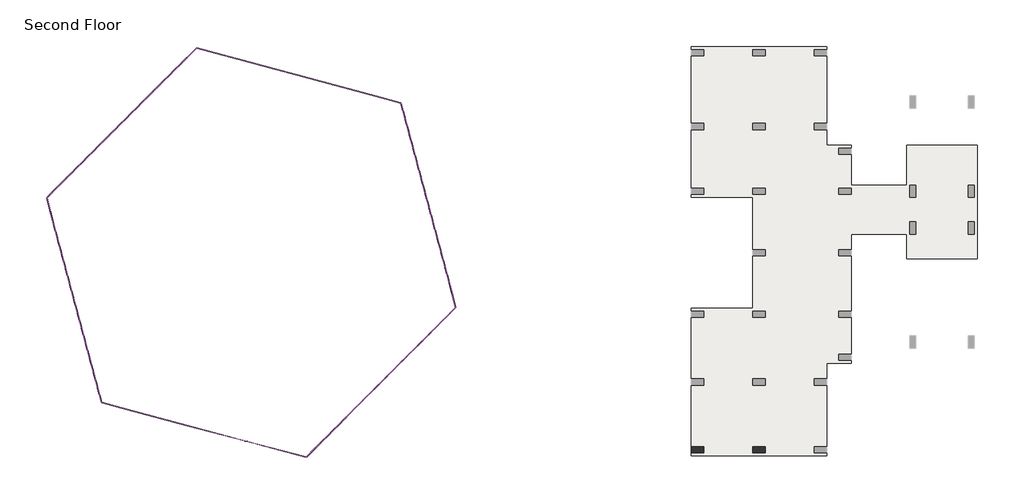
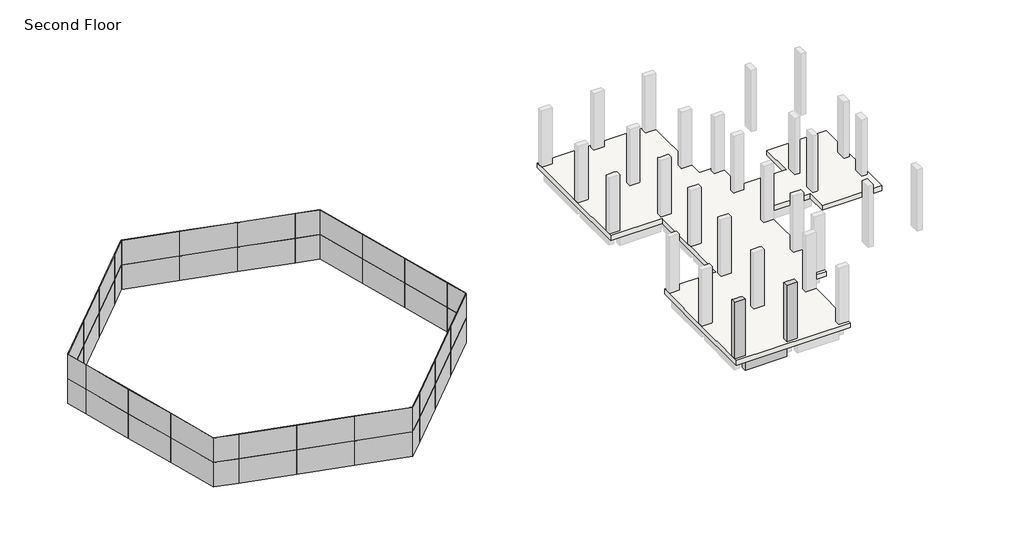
# One storey, part 1 of 2: 96 plates, 2 columns, 1 beam, 1 slab.
"""IFC4 building model written with IfcOpenShell, lengths in millimetres."""

from ifc_helpers import new_model, si_unit, frame, origin, place, context, project, spatial, polyline, outline, extrude, faceted_brep, transform, mapped, element, save
from components import system_panel_glazed_1e57f9bb, system_panel_glazed_41de1ca9

model = new_model("IFC4")

# Units and contexts
model_context = context("Model", 3, world=origin())
ifc_project = project(units=[si_unit("LENGTHUNIT", "METRE", prefix="MILLI")], contexts=[model_context])

# Site, building, storey
site = spatial("IfcSite", under=ifc_project)
building = spatial("IfcBuilding", under=site)
storey = spatial("IfcBuildingStorey", under=building, Name="Second Floor", Elevation=3810.0)

# Beam
placement = place(None, origin())
element("IfcBeam", 1, ObjectType="Concrete-Rectangular Beam : 12 x 24", at=placement, inside=storey, context=model_context, shape_type="SweptSolid", body=[
    extrude(outline(polyline([(-12919.1663981, -9385.4512152), (-12919.1663981, -9690.2512152), (-15357.5663981, -9690.2512152), (-15357.5663981, -9385.4512152), (-12919.1663981, -9385.4512152)])), frame((0.0, 0.0, 2895.6), z_axis=(0.0, 0.0, 1.0), x_axis=(1.0, 0.0, 0.0)), (0.0, 0.0, 1.0), 609.6),
])

# Columns
element("IfcColumn", 2, ObjectType="Concrete-Rectangular-Column : 12 x 24", at=placement, inside=storey, context=model_context, shape_type="Brep", body=[
    faceted_brep([(-15967.1663981, -9385.4512152, 3810.0), (-15357.5663981, -9385.4512152, 3810.0), (-15357.5663981, -9690.2512152, 3810.0), (-15967.1663981, -9690.2512152, 3810.0), (-15967.1663981, -9385.4512152, 7315.2), (-15814.7663981, -9385.4512152, 7315.2), (-15509.9663981, -9385.4512152, 7315.2), (-15357.5663981, -9385.4512152, 7315.2), (-15357.5663981, -9385.4512152, 6705.6), (-15357.5663981, -9690.2512152, 7315.2), (-15357.5663981, -9690.2512152, 6705.6), (-15967.1663981, -9690.2512152, 7315.2)], [[[0, 1, 2, 3]], [[4, 5, 6, 7, 8, 1, 0]], [[7, 9, 10, 2, 1, 8]], [[9, 11, 3, 2, 10]], [[11, 4, 0, 3]], [[4, 11, 9, 7, 6, 5]]]),
])
element("IfcColumn", 3, ObjectType="Concrete-Rectangular-Column : 12 x 24", at=placement, inside=storey, context=model_context, shape_type="Brep", body=[
    faceted_brep([(-12919.1663981, -9385.4512152, 3810.0), (-12309.5663981, -9385.4512152, 3810.0), (-12309.5663981, -9690.2512152, 3810.0), (-12919.1663981, -9690.2512152, 3810.0), (-12919.1663981, -9385.4512152, 7315.2), (-12766.7663981, -9385.4512152, 7315.2), (-12461.9663981, -9385.4512152, 7315.2), (-12309.5663981, -9385.4512152, 7315.2), (-12309.5663981, -9385.4512152, 6705.6), (-12919.1663981, -9385.4512152, 6705.6), (-12309.5663981, -9690.2512152, 7315.2), (-12309.5663981, -9690.2512152, 6705.6), (-12919.1663981, -9690.2512152, 7315.2), (-12919.1663981, -9690.2512152, 6705.6)], [[[0, 1, 2, 3]], [[4, 5, 6, 7, 8, 1, 0, 9]], [[7, 10, 11, 2, 1, 8]], [[10, 12, 13, 3, 2, 11]], [[12, 4, 9, 0, 3, 13]], [[4, 12, 10, 7, 6, 5]]]),
])

# Plates
system_panel_glazed_shape = system_panel_glazed_1e57f9bb(model_context)
element("IfcPlate", 4, ObjectType="System Panel : Glazed", at=placement, inside=storey, context=model_context, shape_type="MappedRepresentation", body=[
    mapped(system_panel_glazed_shape, transform((-38993.5918357, 9917.6121631, 4572.0), x_axis=(0.9659258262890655, -0.25881904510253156, 0.0), y_axis=(0.25881904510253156, 0.9659258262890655, 0.0), z_axis=(0.0, 0.0, 1.0))),
])
element("IfcPlate", 5, ObjectType="System Panel : Glazed", at=placement, inside=storey, context=model_context, shape_type="MappedRepresentation", body=[
    mapped(system_panel_glazed_shape, transform((-36049.449917, 9128.7317136, 4572.0), x_axis=(0.9659258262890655, -0.25881904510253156, 0.0), y_axis=(0.25881904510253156, 0.9659258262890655, 0.0), z_axis=(0.0, 0.0, 1.0))),
])
element("IfcPlate", 6, ObjectType="System Panel : Glazed", at=placement, inside=storey, context=model_context, shape_type="MappedRepresentation", body=[
    mapped(system_panel_glazed_shape, transform((-33105.3079985, 8339.8512641, 4572.0), x_axis=(0.9659258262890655, -0.25881904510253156, 0.0), y_axis=(0.25881904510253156, 0.9659258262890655, 0.0), z_axis=(0.0, 0.0, 1.0))),
])
element("IfcPlate", 7, ObjectType="System Panel : Glazed", at=placement, inside=storey, context=model_context, shape_type="MappedRepresentation", body=[
    mapped(system_panel_glazed_shape, transform((-38993.5918357, 9917.6121631, 6096.0), x_axis=(0.9659258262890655, -0.25881904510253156, 0.0), y_axis=(0.25881904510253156, 0.9659258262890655, 0.0), z_axis=(0.0, 0.0, 1.0))),
])
element("IfcPlate", 8, ObjectType="System Panel : Glazed", at=placement, inside=storey, context=model_context, shape_type="MappedRepresentation", body=[
    mapped(system_panel_glazed_shape, transform((-36049.449917, 9128.7317136, 6096.0), x_axis=(0.9659258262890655, -0.25881904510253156, 0.0), y_axis=(0.25881904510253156, 0.9659258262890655, 0.0), z_axis=(0.0, 0.0, 1.0))),
])
element("IfcPlate", 9, ObjectType="System Panel : Glazed", at=placement, inside=storey, context=model_context, shape_type="MappedRepresentation", body=[
    mapped(system_panel_glazed_shape, transform((-33105.3079985, 8339.8512641, 6096.0), x_axis=(0.9659258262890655, -0.25881904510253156, 0.0), y_axis=(0.25881904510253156, 0.9659258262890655, 0.0), z_axis=(0.0, 0.0, 1.0))),
])
element("IfcPlate", 10, ObjectType="System Panel : Glazed", at=placement, inside=storey, context=model_context, shape_type="MappedRepresentation", body=[
    mapped(system_panel_glazed_shape, transform((-28741.6935298, -3567.1783468, 4572.0), x_axis=(-0.7071067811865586, -0.7071067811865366, 0.0), y_axis=(0.7071067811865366, -0.7071067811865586, 0.0), z_axis=(0.0, 0.0, 1.0))),
])
element("IfcPlate", 11, ObjectType="System Panel : Glazed", at=placement, inside=storey, context=model_context, shape_type="MappedRepresentation", body=[
    mapped(system_panel_glazed_shape, transform((-30896.9549989, -5722.4398159, 4572.0), x_axis=(-0.7071067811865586, -0.7071067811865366, 0.0), y_axis=(0.7071067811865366, -0.7071067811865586, 0.0), z_axis=(0.0, 0.0, 1.0))),
])
element("IfcPlate", 12, ObjectType="System Panel : Glazed", at=placement, inside=storey, context=model_context, shape_type="MappedRepresentation", body=[
    mapped(system_panel_glazed_shape, transform((-33052.216468, -7877.701285, 4572.0), x_axis=(-0.7071067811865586, -0.7071067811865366, 0.0), y_axis=(0.7071067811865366, -0.7071067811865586, 0.0), z_axis=(0.0, 0.0, 1.0))),
])
element("IfcPlate", 13, ObjectType="System Panel : Glazed", at=placement, inside=storey, context=model_context, shape_type="MappedRepresentation", body=[
    mapped(system_panel_glazed_shape, transform((-28741.6935298, -3567.1783468, 6096.0), x_axis=(-0.7071067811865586, -0.7071067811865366, 0.0), y_axis=(0.7071067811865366, -0.7071067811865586, 0.0), z_axis=(0.0, 0.0, 1.0))),
])
element("IfcPlate", 14, ObjectType="System Panel : Glazed", at=placement, inside=storey, context=model_context, shape_type="MappedRepresentation", body=[
    mapped(system_panel_glazed_shape, transform((-30896.9549989, -5722.4398159, 6096.0), x_axis=(-0.7071067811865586, -0.7071067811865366, 0.0), y_axis=(0.7071067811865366, -0.7071067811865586, 0.0), z_axis=(0.0, 0.0, 1.0))),
])
element("IfcPlate", 15, ObjectType="System Panel : Glazed", at=placement, inside=storey, context=model_context, shape_type="MappedRepresentation", body=[
    mapped(system_panel_glazed_shape, transform((-33052.216468, -7877.701285, 6096.0), x_axis=(-0.7071067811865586, -0.7071067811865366, 0.0), y_axis=(0.7071067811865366, -0.7071067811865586, 0.0), z_axis=(0.0, 0.0, 1.0))),
])
element("IfcPlate", 16, ObjectType="System Panel : Glazed", at=placement, inside=storey, context=model_context, shape_type="MappedRepresentation", body=[
    mapped(system_panel_glazed_shape, transform((-29974.9189673, 6134.6850315, 4572.0), x_axis=(0.25881904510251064, -0.965925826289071, 0.0), y_axis=(0.965925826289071, 0.25881904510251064, 0.0), z_axis=(0.0, 0.0, 1.0))),
])
element("IfcPlate", 17, ObjectType="System Panel : Glazed", at=placement, inside=storey, context=model_context, shape_type="MappedRepresentation", body=[
    mapped(system_panel_glazed_shape, transform((-29186.0385178, 3190.5431128, 4572.0), x_axis=(0.25881904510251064, -0.965925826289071, 0.0), y_axis=(0.965925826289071, 0.25881904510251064, 0.0), z_axis=(0.0, 0.0, 1.0))),
])
element("IfcPlate", 18, ObjectType="System Panel : Glazed", at=placement, inside=storey, context=model_context, shape_type="MappedRepresentation", body=[
    mapped(system_panel_glazed_shape, transform((-28397.1580683, 246.4011943, 4572.0), x_axis=(0.25881904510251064, -0.965925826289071, 0.0), y_axis=(0.965925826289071, 0.25881904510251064, 0.0), z_axis=(0.0, 0.0, 1.0))),
])
element("IfcPlate", 19, ObjectType="System Panel : Glazed", at=placement, inside=storey, context=model_context, shape_type="MappedRepresentation", body=[
    mapped(system_panel_glazed_shape, transform((-29974.9189673, 6134.6850315, 6096.0), x_axis=(0.25881904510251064, -0.965925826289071, 0.0), y_axis=(0.965925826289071, 0.25881904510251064, 0.0), z_axis=(0.0, 0.0, 1.0))),
])
element("IfcPlate", 20, ObjectType="System Panel : Glazed", at=placement, inside=storey, context=model_context, shape_type="MappedRepresentation", body=[
    mapped(system_panel_glazed_shape, transform((-29186.0385178, 3190.5431128, 6096.0), x_axis=(0.25881904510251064, -0.965925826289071, 0.0), y_axis=(0.965925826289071, 0.25881904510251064, 0.0), z_axis=(0.0, 0.0, 1.0))),
])
element("IfcPlate", 21, ObjectType="System Panel : Glazed", at=placement, inside=storey, context=model_context, shape_type="MappedRepresentation", body=[
    mapped(system_panel_glazed_shape, transform((-28397.1580683, 246.4011943, 6096.0), x_axis=(0.25881904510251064, -0.965925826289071, 0.0), y_axis=(0.965925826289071, 0.25881904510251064, 0.0), z_axis=(0.0, 0.0, 1.0))),
])
element("IfcPlate", 22, ObjectType="System Panel : Glazed", at=placement, inside=storey, context=model_context, shape_type="MappedRepresentation", body=[
    mapped(system_panel_glazed_shape, transform((-29974.9189673, 6134.6850315, 4572.0), x_axis=(0.25881904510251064, -0.965925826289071, 0.0), y_axis=(0.965925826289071, 0.25881904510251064, 0.0), z_axis=(0.0, 0.0, 1.0))),
])
element("IfcPlate", 23, ObjectType="System Panel : Glazed", at=placement, inside=storey, context=model_context, shape_type="MappedRepresentation", body=[
    mapped(system_panel_glazed_shape, transform((-29186.0385178, 3190.5431128, 4572.0), x_axis=(0.25881904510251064, -0.965925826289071, 0.0), y_axis=(0.965925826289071, 0.25881904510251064, 0.0), z_axis=(0.0, 0.0, 1.0))),
])
element("IfcPlate", 24, ObjectType="System Panel : Glazed", at=placement, inside=storey, context=model_context, shape_type="MappedRepresentation", body=[
    mapped(system_panel_glazed_shape, transform((-28397.1580683, 246.4011943, 4572.0), x_axis=(0.25881904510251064, -0.965925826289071, 0.0), y_axis=(0.965925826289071, 0.25881904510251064, 0.0), z_axis=(0.0, 0.0, 1.0))),
])
element("IfcPlate", 25, ObjectType="System Panel : Glazed", at=placement, inside=storey, context=model_context, shape_type="MappedRepresentation", body=[
    mapped(system_panel_glazed_shape, transform((-29974.9189673, 6134.6850315, 6096.0), x_axis=(0.25881904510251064, -0.965925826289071, 0.0), y_axis=(0.965925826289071, 0.25881904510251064, 0.0), z_axis=(0.0, 0.0, 1.0))),
])
element("IfcPlate", 26, ObjectType="System Panel : Glazed", at=placement, inside=storey, context=model_context, shape_type="MappedRepresentation", body=[
    mapped(system_panel_glazed_shape, transform((-29186.0385178, 3190.5431128, 6096.0), x_axis=(0.25881904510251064, -0.965925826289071, 0.0), y_axis=(0.965925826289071, 0.25881904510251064, 0.0), z_axis=(0.0, 0.0, 1.0))),
])
element("IfcPlate", 27, ObjectType="System Panel : Glazed", at=placement, inside=storey, context=model_context, shape_type="MappedRepresentation", body=[
    mapped(system_panel_glazed_shape, transform((-28397.1580683, 246.4011943, 6096.0), x_axis=(0.25881904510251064, -0.965925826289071, 0.0), y_axis=(0.965925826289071, 0.25881904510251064, 0.0), z_axis=(0.0, 0.0, 1.0))),
])
element("IfcPlate", 28, ObjectType="System Panel : Glazed", at=placement, inside=storey, context=model_context, shape_type="MappedRepresentation", body=[
    mapped(system_panel_glazed_shape, transform((-36527.1409606, -9486.1145934, 4572.0), x_axis=(-0.9659258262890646, 0.2588190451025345, 0.0), y_axis=(-0.2588190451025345, -0.9659258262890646, 0.0), z_axis=(0.0, 0.0, 1.0))),
])
element("IfcPlate", 29, ObjectType="System Panel : Glazed", at=placement, inside=storey, context=model_context, shape_type="MappedRepresentation", body=[
    mapped(system_panel_glazed_shape, transform((-39471.2828793, -8697.2341439, 4572.0), x_axis=(-0.9659258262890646, 0.2588190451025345, 0.0), y_axis=(-0.2588190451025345, -0.9659258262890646, 0.0), z_axis=(0.0, 0.0, 1.0))),
])
element("IfcPlate", 30, ObjectType="System Panel : Glazed", at=placement, inside=storey, context=model_context, shape_type="MappedRepresentation", body=[
    mapped(system_panel_glazed_shape, transform((-42415.4247978, -7908.3536944, 4572.0), x_axis=(-0.9659258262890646, 0.2588190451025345, 0.0), y_axis=(-0.2588190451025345, -0.9659258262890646, 0.0), z_axis=(0.0, 0.0, 1.0))),
])
element("IfcPlate", 31, ObjectType="System Panel : Glazed", at=placement, inside=storey, context=model_context, shape_type="MappedRepresentation", body=[
    mapped(system_panel_glazed_shape, transform((-36527.1409606, -9486.1145934, 6096.0), x_axis=(-0.9659258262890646, 0.2588190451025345, 0.0), y_axis=(-0.2588190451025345, -0.9659258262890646, 0.0), z_axis=(0.0, 0.0, 1.0))),
])
element("IfcPlate", 32, ObjectType="System Panel : Glazed", at=placement, inside=storey, context=model_context, shape_type="MappedRepresentation", body=[
    mapped(system_panel_glazed_shape, transform((-39471.2828793, -8697.2341439, 6096.0), x_axis=(-0.9659258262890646, 0.2588190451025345, 0.0), y_axis=(-0.2588190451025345, -0.9659258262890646, 0.0), z_axis=(0.0, 0.0, 1.0))),
])
element("IfcPlate", 33, ObjectType="System Panel : Glazed", at=placement, inside=storey, context=model_context, shape_type="MappedRepresentation", body=[
    mapped(system_panel_glazed_shape, transform((-42415.4247978, -7908.3536944, 6096.0), x_axis=(-0.9659258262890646, 0.2588190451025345, 0.0), y_axis=(-0.2588190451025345, -0.9659258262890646, 0.0), z_axis=(0.0, 0.0, 1.0))),
])
element("IfcPlate", 34, ObjectType="System Panel : Glazed", at=placement, inside=storey, context=model_context, shape_type="MappedRepresentation", body=[
    mapped(system_panel_glazed_shape, transform((-28741.6935298, -3567.1783468, 4572.0), x_axis=(-0.7071067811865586, -0.7071067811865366, 0.0), y_axis=(0.7071067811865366, -0.7071067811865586, 0.0), z_axis=(0.0, 0.0, 1.0))),
])
element("IfcPlate", 35, ObjectType="System Panel : Glazed", at=placement, inside=storey, context=model_context, shape_type="MappedRepresentation", body=[
    mapped(system_panel_glazed_shape, transform((-30896.9549989, -5722.4398159, 4572.0), x_axis=(-0.7071067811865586, -0.7071067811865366, 0.0), y_axis=(0.7071067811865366, -0.7071067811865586, 0.0), z_axis=(0.0, 0.0, 1.0))),
])
element("IfcPlate", 36, ObjectType="System Panel : Glazed", at=placement, inside=storey, context=model_context, shape_type="MappedRepresentation", body=[
    mapped(system_panel_glazed_shape, transform((-33052.216468, -7877.701285, 4572.0), x_axis=(-0.7071067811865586, -0.7071067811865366, 0.0), y_axis=(0.7071067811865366, -0.7071067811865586, 0.0), z_axis=(0.0, 0.0, 1.0))),
])
element("IfcPlate", 37, ObjectType="System Panel : Glazed", at=placement, inside=storey, context=model_context, shape_type="MappedRepresentation", body=[
    mapped(system_panel_glazed_shape, transform((-28741.6935298, -3567.1783468, 6096.0), x_axis=(-0.7071067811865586, -0.7071067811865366, 0.0), y_axis=(0.7071067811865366, -0.7071067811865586, 0.0), z_axis=(0.0, 0.0, 1.0))),
])
element("IfcPlate", 38, ObjectType="System Panel : Glazed", at=placement, inside=storey, context=model_context, shape_type="MappedRepresentation", body=[
    mapped(system_panel_glazed_shape, transform((-30896.9549989, -5722.4398159, 6096.0), x_axis=(-0.7071067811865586, -0.7071067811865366, 0.0), y_axis=(0.7071067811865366, -0.7071067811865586, 0.0), z_axis=(0.0, 0.0, 1.0))),
])
element("IfcPlate", 39, ObjectType="System Panel : Glazed", at=placement, inside=storey, context=model_context, shape_type="MappedRepresentation", body=[
    mapped(system_panel_glazed_shape, transform((-33052.216468, -7877.701285, 6096.0), x_axis=(-0.7071067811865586, -0.7071067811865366, 0.0), y_axis=(0.7071067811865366, -0.7071067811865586, 0.0), z_axis=(0.0, 0.0, 1.0))),
])
element("IfcPlate", 40, ObjectType="System Panel : Glazed", at=placement, inside=storey, context=model_context, shape_type="MappedRepresentation", body=[
    mapped(system_panel_glazed_shape, transform((-38993.5918357, 9917.6121631, 4572.0), x_axis=(0.9659258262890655, -0.25881904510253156, 0.0), y_axis=(0.25881904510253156, 0.9659258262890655, 0.0), z_axis=(0.0, 0.0, 1.0))),
])
element("IfcPlate", 41, ObjectType="System Panel : Glazed", at=placement, inside=storey, context=model_context, shape_type="MappedRepresentation", body=[
    mapped(system_panel_glazed_shape, transform((-36049.449917, 9128.7317136, 4572.0), x_axis=(0.9659258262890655, -0.25881904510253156, 0.0), y_axis=(0.25881904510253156, 0.9659258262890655, 0.0), z_axis=(0.0, 0.0, 1.0))),
])
element("IfcPlate", 42, ObjectType="System Panel : Glazed", at=placement, inside=storey, context=model_context, shape_type="MappedRepresentation", body=[
    mapped(system_panel_glazed_shape, transform((-33105.3079985, 8339.8512641, 4572.0), x_axis=(0.9659258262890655, -0.25881904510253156, 0.0), y_axis=(0.25881904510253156, 0.9659258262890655, 0.0), z_axis=(0.0, 0.0, 1.0))),
])
element("IfcPlate", 43, ObjectType="System Panel : Glazed", at=placement, inside=storey, context=model_context, shape_type="MappedRepresentation", body=[
    mapped(system_panel_glazed_shape, transform((-38993.5918357, 9917.6121631, 6096.0), x_axis=(0.9659258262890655, -0.25881904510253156, 0.0), y_axis=(0.25881904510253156, 0.9659258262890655, 0.0), z_axis=(0.0, 0.0, 1.0))),
])
element("IfcPlate", 44, ObjectType="System Panel : Glazed", at=placement, inside=storey, context=model_context, shape_type="MappedRepresentation", body=[
    mapped(system_panel_glazed_shape, transform((-36049.449917, 9128.7317136, 6096.0), x_axis=(0.9659258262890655, -0.25881904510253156, 0.0), y_axis=(0.25881904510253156, 0.9659258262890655, 0.0), z_axis=(0.0, 0.0, 1.0))),
])
element("IfcPlate", 45, ObjectType="System Panel : Glazed", at=placement, inside=storey, context=model_context, shape_type="MappedRepresentation", body=[
    mapped(system_panel_glazed_shape, transform((-33105.3079985, 8339.8512641, 6096.0), x_axis=(0.9659258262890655, -0.25881904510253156, 0.0), y_axis=(0.25881904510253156, 0.9659258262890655, 0.0), z_axis=(0.0, 0.0, 1.0))),
])
element("IfcPlate", 46, ObjectType="System Panel : Glazed", at=placement, inside=storey, context=model_context, shape_type="MappedRepresentation", body=[
    mapped(system_panel_glazed_shape, transform((-46779.0392665, 3998.6759164, 4572.0), x_axis=(0.7071067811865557, 0.7071067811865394, 0.0), y_axis=(-0.7071067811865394, 0.7071067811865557, 0.0), z_axis=(0.0, 0.0, 1.0))),
])
element("IfcPlate", 47, ObjectType="System Panel : Glazed", at=placement, inside=storey, context=model_context, shape_type="MappedRepresentation", body=[
    mapped(system_panel_glazed_shape, transform((-44623.7777974, 6153.9373856, 4572.0), x_axis=(0.7071067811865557, 0.7071067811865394, 0.0), y_axis=(-0.7071067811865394, 0.7071067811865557, 0.0), z_axis=(0.0, 0.0, 1.0))),
])
element("IfcPlate", 48, ObjectType="System Panel : Glazed", at=placement, inside=storey, context=model_context, shape_type="MappedRepresentation", body=[
    mapped(system_panel_glazed_shape, transform((-42468.5163283, 8309.1988547, 4572.0), x_axis=(0.7071067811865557, 0.7071067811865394, 0.0), y_axis=(-0.7071067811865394, 0.7071067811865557, 0.0), z_axis=(0.0, 0.0, 1.0))),
])
element("IfcPlate", 49, ObjectType="System Panel : Glazed", at=placement, inside=storey, context=model_context, shape_type="MappedRepresentation", body=[
    mapped(system_panel_glazed_shape, transform((-46779.0392665, 3998.6759164, 6096.0), x_axis=(0.7071067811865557, 0.7071067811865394, 0.0), y_axis=(-0.7071067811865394, 0.7071067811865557, 0.0), z_axis=(0.0, 0.0, 1.0))),
])
element("IfcPlate", 50, ObjectType="System Panel : Glazed", at=placement, inside=storey, context=model_context, shape_type="MappedRepresentation", body=[
    mapped(system_panel_glazed_shape, transform((-44623.7777974, 6153.9373856, 6096.0), x_axis=(0.7071067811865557, 0.7071067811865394, 0.0), y_axis=(-0.7071067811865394, 0.7071067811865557, 0.0), z_axis=(0.0, 0.0, 1.0))),
])
element("IfcPlate", 51, ObjectType="System Panel : Glazed", at=placement, inside=storey, context=model_context, shape_type="MappedRepresentation", body=[
    mapped(system_panel_glazed_shape, transform((-42468.5163283, 8309.1988547, 6096.0), x_axis=(0.7071067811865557, 0.7071067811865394, 0.0), y_axis=(-0.7071067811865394, 0.7071067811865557, 0.0), z_axis=(0.0, 0.0, 1.0))),
])
element("IfcPlate", 52, ObjectType="System Panel : Glazed", at=placement, inside=storey, context=model_context, shape_type="MappedRepresentation", body=[
    mapped(system_panel_glazed_shape, transform((-45545.813829, -5703.1874618, 4572.0), x_axis=(-0.2588190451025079, 0.9659258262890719, 0.0), y_axis=(-0.9659258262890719, -0.2588190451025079, 0.0), z_axis=(0.0, 0.0, 1.0))),
])
element("IfcPlate", 53, ObjectType="System Panel : Glazed", at=placement, inside=storey, context=model_context, shape_type="MappedRepresentation", body=[
    mapped(system_panel_glazed_shape, transform((-46334.6942785, -2759.0455431, 4572.0), x_axis=(-0.2588190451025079, 0.9659258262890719, 0.0), y_axis=(-0.9659258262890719, -0.2588190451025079, 0.0), z_axis=(0.0, 0.0, 1.0))),
])
element("IfcPlate", 54, ObjectType="System Panel : Glazed", at=placement, inside=storey, context=model_context, shape_type="MappedRepresentation", body=[
    mapped(system_panel_glazed_shape, transform((-47123.574728, 185.0963754, 4572.0), x_axis=(-0.2588190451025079, 0.9659258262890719, 0.0), y_axis=(-0.9659258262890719, -0.2588190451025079, 0.0), z_axis=(0.0, 0.0, 1.0))),
])
element("IfcPlate", 55, ObjectType="System Panel : Glazed", at=placement, inside=storey, context=model_context, shape_type="MappedRepresentation", body=[
    mapped(system_panel_glazed_shape, transform((-45545.813829, -5703.1874618, 6096.0), x_axis=(-0.2588190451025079, 0.9659258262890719, 0.0), y_axis=(-0.9659258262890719, -0.2588190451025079, 0.0), z_axis=(0.0, 0.0, 1.0))),
])
element("IfcPlate", 56, ObjectType="System Panel : Glazed", at=placement, inside=storey, context=model_context, shape_type="MappedRepresentation", body=[
    mapped(system_panel_glazed_shape, transform((-46334.6942785, -2759.0455431, 6096.0), x_axis=(-0.2588190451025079, 0.9659258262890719, 0.0), y_axis=(-0.9659258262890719, -0.2588190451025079, 0.0), z_axis=(0.0, 0.0, 1.0))),
])
element("IfcPlate", 57, ObjectType="System Panel : Glazed", at=placement, inside=storey, context=model_context, shape_type="MappedRepresentation", body=[
    mapped(system_panel_glazed_shape, transform((-47123.574728, 185.0963754, 6096.0), x_axis=(-0.2588190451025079, 0.9659258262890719, 0.0), y_axis=(-0.9659258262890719, -0.2588190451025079, 0.0), z_axis=(0.0, 0.0, 1.0))),
])
element("IfcPlate", 58, ObjectType="System Panel : Glazed", at=placement, inside=storey, context=model_context, shape_type="MappedRepresentation", body=[
    mapped(system_panel_glazed_shape, transform((-38993.5918357, 9917.6121631, 4572.0), x_axis=(0.9659258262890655, -0.25881904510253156, 0.0), y_axis=(0.25881904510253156, 0.9659258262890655, 0.0), z_axis=(0.0, 0.0, 1.0))),
])
element("IfcPlate", 59, ObjectType="System Panel : Glazed", at=placement, inside=storey, context=model_context, shape_type="MappedRepresentation", body=[
    mapped(system_panel_glazed_shape, transform((-36049.449917, 9128.7317136, 4572.0), x_axis=(0.9659258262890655, -0.25881904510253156, 0.0), y_axis=(0.25881904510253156, 0.9659258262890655, 0.0), z_axis=(0.0, 0.0, 1.0))),
])
element("IfcPlate", 60, ObjectType="System Panel : Glazed", at=placement, inside=storey, context=model_context, shape_type="MappedRepresentation", body=[
    mapped(system_panel_glazed_shape, transform((-33105.3079985, 8339.8512641, 4572.0), x_axis=(0.9659258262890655, -0.25881904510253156, 0.0), y_axis=(0.25881904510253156, 0.9659258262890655, 0.0), z_axis=(0.0, 0.0, 1.0))),
])
element("IfcPlate", 61, ObjectType="System Panel : Glazed", at=placement, inside=storey, context=model_context, shape_type="MappedRepresentation", body=[
    mapped(system_panel_glazed_shape, transform((-38993.5918357, 9917.6121631, 6096.0), x_axis=(0.9659258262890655, -0.25881904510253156, 0.0), y_axis=(0.25881904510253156, 0.9659258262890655, 0.0), z_axis=(0.0, 0.0, 1.0))),
])
element("IfcPlate", 62, ObjectType="System Panel : Glazed", at=placement, inside=storey, context=model_context, shape_type="MappedRepresentation", body=[
    mapped(system_panel_glazed_shape, transform((-36049.449917, 9128.7317136, 6096.0), x_axis=(0.9659258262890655, -0.25881904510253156, 0.0), y_axis=(0.25881904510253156, 0.9659258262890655, 0.0), z_axis=(0.0, 0.0, 1.0))),
])
element("IfcPlate", 63, ObjectType="System Panel : Glazed", at=placement, inside=storey, context=model_context, shape_type="MappedRepresentation", body=[
    mapped(system_panel_glazed_shape, transform((-33105.3079985, 8339.8512641, 6096.0), x_axis=(0.9659258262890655, -0.25881904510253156, 0.0), y_axis=(0.25881904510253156, 0.9659258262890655, 0.0), z_axis=(0.0, 0.0, 1.0))),
])
element("IfcPlate", 64, ObjectType="System Panel : Glazed", at=placement, inside=storey, context=model_context, shape_type="MappedRepresentation", body=[
    mapped(system_panel_glazed_shape, transform((-46779.0392665, 3998.6759164, 4572.0), x_axis=(0.7071067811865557, 0.7071067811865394, 0.0), y_axis=(-0.7071067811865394, 0.7071067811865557, 0.0), z_axis=(0.0, 0.0, 1.0))),
])
element("IfcPlate", 65, ObjectType="System Panel : Glazed", at=placement, inside=storey, context=model_context, shape_type="MappedRepresentation", body=[
    mapped(system_panel_glazed_shape, transform((-44623.7777974, 6153.9373856, 4572.0), x_axis=(0.7071067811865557, 0.7071067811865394, 0.0), y_axis=(-0.7071067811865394, 0.7071067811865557, 0.0), z_axis=(0.0, 0.0, 1.0))),
])
element("IfcPlate", 66, ObjectType="System Panel : Glazed", at=placement, inside=storey, context=model_context, shape_type="MappedRepresentation", body=[
    mapped(system_panel_glazed_shape, transform((-42468.5163283, 8309.1988547, 4572.0), x_axis=(0.7071067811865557, 0.7071067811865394, 0.0), y_axis=(-0.7071067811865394, 0.7071067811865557, 0.0), z_axis=(0.0, 0.0, 1.0))),
])
element("IfcPlate", 67, ObjectType="System Panel : Glazed", at=placement, inside=storey, context=model_context, shape_type="MappedRepresentation", body=[
    mapped(system_panel_glazed_shape, transform((-46779.0392665, 3998.6759164, 6096.0), x_axis=(0.7071067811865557, 0.7071067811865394, 0.0), y_axis=(-0.7071067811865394, 0.7071067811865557, 0.0), z_axis=(0.0, 0.0, 1.0))),
])
element("IfcPlate", 68, ObjectType="System Panel : Glazed", at=placement, inside=storey, context=model_context, shape_type="MappedRepresentation", body=[
    mapped(system_panel_glazed_shape, transform((-44623.7777974, 6153.9373856, 6096.0), x_axis=(0.7071067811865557, 0.7071067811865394, 0.0), y_axis=(-0.7071067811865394, 0.7071067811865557, 0.0), z_axis=(0.0, 0.0, 1.0))),
])
element("IfcPlate", 69, ObjectType="System Panel : Glazed", at=placement, inside=storey, context=model_context, shape_type="MappedRepresentation", body=[
    mapped(system_panel_glazed_shape, transform((-42468.5163283, 8309.1988547, 6096.0), x_axis=(0.7071067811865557, 0.7071067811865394, 0.0), y_axis=(-0.7071067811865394, 0.7071067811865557, 0.0), z_axis=(0.0, 0.0, 1.0))),
])
element("IfcPlate", 70, ObjectType="System Panel : Glazed", at=placement, inside=storey, context=model_context, shape_type="MappedRepresentation", body=[
    mapped(system_panel_glazed_shape, transform((-29974.9189673, 6134.6850315, 4572.0), x_axis=(0.25881904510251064, -0.965925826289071, 0.0), y_axis=(0.965925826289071, 0.25881904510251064, 0.0), z_axis=(0.0, 0.0, 1.0))),
])
element("IfcPlate", 71, ObjectType="System Panel : Glazed", at=placement, inside=storey, context=model_context, shape_type="MappedRepresentation", body=[
    mapped(system_panel_glazed_shape, transform((-29186.0385178, 3190.5431128, 4572.0), x_axis=(0.25881904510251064, -0.965925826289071, 0.0), y_axis=(0.965925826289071, 0.25881904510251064, 0.0), z_axis=(0.0, 0.0, 1.0))),
])
element("IfcPlate", 72, ObjectType="System Panel : Glazed", at=placement, inside=storey, context=model_context, shape_type="MappedRepresentation", body=[
    mapped(system_panel_glazed_shape, transform((-28397.1580683, 246.4011943, 4572.0), x_axis=(0.25881904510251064, -0.965925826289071, 0.0), y_axis=(0.965925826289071, 0.25881904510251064, 0.0), z_axis=(0.0, 0.0, 1.0))),
])
element("IfcPlate", 73, ObjectType="System Panel : Glazed", at=placement, inside=storey, context=model_context, shape_type="MappedRepresentation", body=[
    mapped(system_panel_glazed_shape, transform((-29974.9189673, 6134.6850315, 6096.0), x_axis=(0.25881904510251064, -0.965925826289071, 0.0), y_axis=(0.965925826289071, 0.25881904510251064, 0.0), z_axis=(0.0, 0.0, 1.0))),
])
element("IfcPlate", 74, ObjectType="System Panel : Glazed", at=placement, inside=storey, context=model_context, shape_type="MappedRepresentation", body=[
    mapped(system_panel_glazed_shape, transform((-29186.0385178, 3190.5431128, 6096.0), x_axis=(0.25881904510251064, -0.965925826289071, 0.0), y_axis=(0.965925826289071, 0.25881904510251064, 0.0), z_axis=(0.0, 0.0, 1.0))),
])
element("IfcPlate", 75, ObjectType="System Panel : Glazed", at=placement, inside=storey, context=model_context, shape_type="MappedRepresentation", body=[
    mapped(system_panel_glazed_shape, transform((-28397.1580683, 246.4011943, 6096.0), x_axis=(0.25881904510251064, -0.965925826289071, 0.0), y_axis=(0.965925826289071, 0.25881904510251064, 0.0), z_axis=(0.0, 0.0, 1.0))),
])
system_panel_glazed_2_shape = system_panel_glazed_41de1ca9(model_context)
element("IfcPlate", 76, ObjectType="System Panel : Glazed", at=placement, inside=storey, context=model_context, shape_type="MappedRepresentation", body=[
    mapped(system_panel_glazed_2_shape, transform((-31001.2981157, 7776.0835151, 4572.0), x_axis=(0.9659258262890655, -0.25881904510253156, 0.0), y_axis=(0.25881904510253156, 0.9659258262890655, 0.0), z_axis=(0.0, 0.0, 1.0))),
])
element("IfcPlate", 77, ObjectType="System Panel : Glazed", at=placement, inside=storey, context=model_context, shape_type="MappedRepresentation", body=[
    mapped(system_panel_glazed_2_shape, transform((-31001.2981157, 7776.0835151, 6096.0), x_axis=(0.9659258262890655, -0.25881904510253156, 0.0), y_axis=(0.25881904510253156, 0.9659258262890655, 0.0), z_axis=(0.0, 0.0, 1.0))),
])
element("IfcPlate", 78, ObjectType="System Panel : Glazed", at=placement, inside=storey, context=model_context, shape_type="MappedRepresentation", body=[
    mapped(system_panel_glazed_2_shape, transform((-34592.4586018, -9417.9434189, 4572.0), x_axis=(-0.7071067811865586, -0.7071067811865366, 0.0), y_axis=(0.7071067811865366, -0.7071067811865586, 0.0), z_axis=(0.0, 0.0, 1.0))),
])
element("IfcPlate", 79, ObjectType="System Panel : Glazed", at=placement, inside=storey, context=model_context, shape_type="MappedRepresentation", body=[
    mapped(system_panel_glazed_2_shape, transform((-34592.4586018, -9417.9434189, 6096.0), x_axis=(-0.7071067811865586, -0.7071067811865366, 0.0), y_axis=(0.7071067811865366, -0.7071067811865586, 0.0), z_axis=(0.0, 0.0, 1.0))),
])
element("IfcPlate", 80, ObjectType="System Panel : Glazed", at=placement, inside=storey, context=model_context, shape_type="MappedRepresentation", body=[
    mapped(system_panel_glazed_2_shape, transform((-27833.3903194, -1857.6086886, 4572.0), x_axis=(0.25881904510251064, -0.965925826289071, 0.0), y_axis=(0.965925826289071, 0.25881904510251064, 0.0), z_axis=(0.0, 0.0, 1.0))),
])
element("IfcPlate", 81, ObjectType="System Panel : Glazed", at=placement, inside=storey, context=model_context, shape_type="MappedRepresentation", body=[
    mapped(system_panel_glazed_2_shape, transform((-27833.3903194, -1857.6086886, 6096.0), x_axis=(0.25881904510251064, -0.965925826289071, 0.0), y_axis=(0.965925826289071, 0.25881904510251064, 0.0), z_axis=(0.0, 0.0, 1.0))),
])
element("IfcPlate", 82, ObjectType="System Panel : Glazed", at=placement, inside=storey, context=model_context, shape_type="MappedRepresentation", body=[
    mapped(system_panel_glazed_2_shape, transform((-27833.3903194, -1857.6086886, 4572.0), x_axis=(0.25881904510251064, -0.965925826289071, 0.0), y_axis=(0.965925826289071, 0.25881904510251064, 0.0), z_axis=(0.0, 0.0, 1.0))),
])
element("IfcPlate", 83, ObjectType="System Panel : Glazed", at=placement, inside=storey, context=model_context, shape_type="MappedRepresentation", body=[
    mapped(system_panel_glazed_2_shape, transform((-27833.3903194, -1857.6086886, 6096.0), x_axis=(0.25881904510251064, -0.965925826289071, 0.0), y_axis=(0.965925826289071, 0.25881904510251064, 0.0), z_axis=(0.0, 0.0, 1.0))),
])
element("IfcPlate", 84, ObjectType="System Panel : Glazed", at=placement, inside=storey, context=model_context, shape_type="MappedRepresentation", body=[
    mapped(system_panel_glazed_2_shape, transform((-44519.4346806, -7344.5859455, 4572.0), x_axis=(-0.9659258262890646, 0.2588190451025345, 0.0), y_axis=(-0.2588190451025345, -0.9659258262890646, 0.0), z_axis=(0.0, 0.0, 1.0))),
])
element("IfcPlate", 85, ObjectType="System Panel : Glazed", at=placement, inside=storey, context=model_context, shape_type="MappedRepresentation", body=[
    mapped(system_panel_glazed_2_shape, transform((-44519.4346806, -7344.5859455, 6096.0), x_axis=(-0.9659258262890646, 0.2588190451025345, 0.0), y_axis=(-0.2588190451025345, -0.9659258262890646, 0.0), z_axis=(0.0, 0.0, 1.0))),
])
element("IfcPlate", 86, ObjectType="System Panel : Glazed", at=placement, inside=storey, context=model_context, shape_type="MappedRepresentation", body=[
    mapped(system_panel_glazed_2_shape, transform((-34592.4586018, -9417.9434189, 4572.0), x_axis=(-0.7071067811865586, -0.7071067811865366, 0.0), y_axis=(0.7071067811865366, -0.7071067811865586, 0.0), z_axis=(0.0, 0.0, 1.0))),
])
element("IfcPlate", 87, ObjectType="System Panel : Glazed", at=placement, inside=storey, context=model_context, shape_type="MappedRepresentation", body=[
    mapped(system_panel_glazed_2_shape, transform((-34592.4586018, -9417.9434189, 6096.0), x_axis=(-0.7071067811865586, -0.7071067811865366, 0.0), y_axis=(0.7071067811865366, -0.7071067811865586, 0.0), z_axis=(0.0, 0.0, 1.0))),
])
element("IfcPlate", 88, ObjectType="System Panel : Glazed", at=placement, inside=storey, context=model_context, shape_type="MappedRepresentation", body=[
    mapped(system_panel_glazed_2_shape, transform((-31001.2981157, 7776.0835151, 4572.0), x_axis=(0.9659258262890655, -0.25881904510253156, 0.0), y_axis=(0.25881904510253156, 0.9659258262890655, 0.0), z_axis=(0.0, 0.0, 1.0))),
])
element("IfcPlate", 89, ObjectType="System Panel : Glazed", at=placement, inside=storey, context=model_context, shape_type="MappedRepresentation", body=[
    mapped(system_panel_glazed_2_shape, transform((-31001.2981157, 7776.0835151, 6096.0), x_axis=(0.9659258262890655, -0.25881904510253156, 0.0), y_axis=(0.25881904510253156, 0.9659258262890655, 0.0), z_axis=(0.0, 0.0, 1.0))),
])
element("IfcPlate", 90, ObjectType="System Panel : Glazed", at=placement, inside=storey, context=model_context, shape_type="MappedRepresentation", body=[
    mapped(system_panel_glazed_2_shape, transform((-40928.2741945, 9849.4409885, 4572.0), x_axis=(0.7071067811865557, 0.7071067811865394, 0.0), y_axis=(-0.7071067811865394, 0.7071067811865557, 0.0), z_axis=(0.0, 0.0, 1.0))),
])
element("IfcPlate", 91, ObjectType="System Panel : Glazed", at=placement, inside=storey, context=model_context, shape_type="MappedRepresentation", body=[
    mapped(system_panel_glazed_2_shape, transform((-40928.2741945, 9849.4409885, 6096.0), x_axis=(0.7071067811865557, 0.7071067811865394, 0.0), y_axis=(-0.7071067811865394, 0.7071067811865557, 0.0), z_axis=(0.0, 0.0, 1.0))),
])
element("IfcPlate", 92, ObjectType="System Panel : Glazed", at=placement, inside=storey, context=model_context, shape_type="MappedRepresentation", body=[
    mapped(system_panel_glazed_2_shape, transform((-47687.3424769, 2289.1062582, 4572.0), x_axis=(-0.2588190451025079, 0.9659258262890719, 0.0), y_axis=(-0.9659258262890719, -0.2588190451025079, 0.0), z_axis=(0.0, 0.0, 1.0))),
])
element("IfcPlate", 93, ObjectType="System Panel : Glazed", at=placement, inside=storey, context=model_context, shape_type="MappedRepresentation", body=[
    mapped(system_panel_glazed_2_shape, transform((-47687.3424769, 2289.1062582, 6096.0), x_axis=(-0.2588190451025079, 0.9659258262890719, 0.0), y_axis=(-0.9659258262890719, -0.2588190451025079, 0.0), z_axis=(0.0, 0.0, 1.0))),
])
element("IfcPlate", 94, ObjectType="System Panel : Glazed", at=placement, inside=storey, context=model_context, shape_type="MappedRepresentation", body=[
    mapped(system_panel_glazed_2_shape, transform((-31001.2981157, 7776.0835151, 4572.0), x_axis=(0.9659258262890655, -0.25881904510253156, 0.0), y_axis=(0.25881904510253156, 0.9659258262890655, 0.0), z_axis=(0.0, 0.0, 1.0))),
])
element("IfcPlate", 95, ObjectType="System Panel : Glazed", at=placement, inside=storey, context=model_context, shape_type="MappedRepresentation", body=[
    mapped(system_panel_glazed_2_shape, transform((-31001.2981157, 7776.0835151, 6096.0), x_axis=(0.9659258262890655, -0.25881904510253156, 0.0), y_axis=(0.25881904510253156, 0.9659258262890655, 0.0), z_axis=(0.0, 0.0, 1.0))),
])
element("IfcPlate", 96, ObjectType="System Panel : Glazed", at=placement, inside=storey, context=model_context, shape_type="MappedRepresentation", body=[
    mapped(system_panel_glazed_2_shape, transform((-40928.2741945, 9849.4409885, 4572.0), x_axis=(0.7071067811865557, 0.7071067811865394, 0.0), y_axis=(-0.7071067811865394, 0.7071067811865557, 0.0), z_axis=(0.0, 0.0, 1.0))),
])
element("IfcPlate", 97, ObjectType="System Panel : Glazed", at=placement, inside=storey, context=model_context, shape_type="MappedRepresentation", body=[
    mapped(system_panel_glazed_2_shape, transform((-40928.2741945, 9849.4409885, 6096.0), x_axis=(0.7071067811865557, 0.7071067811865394, 0.0), y_axis=(-0.7071067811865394, 0.7071067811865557, 0.0), z_axis=(0.0, 0.0, 1.0))),
])
element("IfcPlate", 98, ObjectType="System Panel : Glazed", at=placement, inside=storey, context=model_context, shape_type="MappedRepresentation", body=[
    mapped(system_panel_glazed_2_shape, transform((-27833.3903194, -1857.6086886, 4572.0), x_axis=(0.25881904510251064, -0.965925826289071, 0.0), y_axis=(0.965925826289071, 0.25881904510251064, 0.0), z_axis=(0.0, 0.0, 1.0))),
])
element("IfcPlate", 99, ObjectType="System Panel : Glazed", at=placement, inside=storey, context=model_context, shape_type="MappedRepresentation", body=[
    mapped(system_panel_glazed_2_shape, transform((-27833.3903194, -1857.6086886, 6096.0), x_axis=(0.25881904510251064, -0.965925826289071, 0.0), y_axis=(0.965925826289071, 0.25881904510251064, 0.0), z_axis=(0.0, 0.0, 1.0))),
])

# Slab
element("IfcSlab", 100, ObjectType="Generic - 12\"", at=placement, inside=storey, context=model_context, shape_type="Brep", body=[
    faceted_brep([(-9261.5663981, 10426.5487848, 3505.2), (-9261.5663981, 10274.1487848, 3505.2), (-9261.5663981, 9969.3487848, 3505.2), (-9261.5663981, 6616.5487848, 3505.2), (-9261.5663981, 6311.7487848, 3505.2), (-9261.5663981, 5549.7487848, 3505.2), (-8042.3663981, 5549.7487848, 3505.2), (-8042.3663981, 5397.3487848, 3505.2), (-8042.3663981, 5092.5487848, 3505.2), (-8042.3663981, 3568.5487848, 3505.2), (-5299.1663981, 3568.5487848, 3505.2), (-5299.1663981, 5549.7487848, 3505.2), (-1793.9663981, 5549.7487848, 3505.2), (-1793.9663981, -89.0512152, 3505.2), (-5299.1663981, -89.0512152, 3505.2), (-5299.1663981, 1130.1487848, 3505.2), (-8042.3663981, 1130.1487848, 3505.2), (-8042.3663981, 368.1487848, 3505.2), (-8042.3663981, 63.3487848, 3505.2), (-8042.3663981, -2679.8512152, 3505.2), (-8042.3663981, -2984.6512152, 3505.2), (-8042.3663981, -4813.4512152, 3505.2), (-8042.3663981, -5118.2512152, 3505.2), (-8042.3663981, -5270.6512152, 3505.2), (-9261.5663981, -5270.6512152, 3505.2), (-9261.5663981, -6032.6512152, 3505.2), (-9261.5663981, -6337.4512152, 3505.2), (-9261.5663981, -9385.4512152, 3505.2), (-9261.5663981, -9690.2512152, 3505.2), (-9261.5663981, -9842.6512152, 3505.2), (-15967.1663981, -9842.6512152, 3505.2), (-15967.1663981, -9690.2512152, 3505.2), (-15967.1663981, -9385.4512152, 3505.2), (-15967.1663981, -6337.4512152, 3505.2), (-15967.1663981, -6032.6512152, 3505.2), (-15967.1663981, -2984.6512152, 3505.2), (-15967.1663981, -2679.8512152, 3505.2), (-15967.1663981, -2527.4512152, 3505.2), (-12919.1663981, -2527.4512152, 3505.2), (-12919.1663981, 63.3487848, 3505.2), (-12919.1663981, 368.1487848, 3505.2), (-12919.1663981, 2958.9487848, 3505.2), (-15967.1663981, 2958.9487848, 3505.2), (-15967.1663981, 3111.3487848, 3505.2), (-15967.1663981, 3416.1487848, 3505.2), (-15967.1663981, 6311.7487848, 3505.2), (-15967.1663981, 6616.5487848, 3505.2), (-15967.1663981, 9969.3487848, 3505.2), (-15967.1663981, 10274.1487848, 3505.2), (-15967.1663981, 10426.5487848, 3505.2), (-9261.5663981, 10426.5487848, 3810.0), (-15967.1663981, 10426.5487848, 3810.0), (-15967.1663981, 10274.1487848, 3810.0), (-15967.1663981, 9969.3487848, 3810.0), (-15967.1663981, 6616.5487848, 3810.0), (-15967.1663981, 6311.7487848, 3810.0), (-15967.1663981, 3416.1487848, 3810.0), (-15967.1663981, 3111.3487848, 3810.0), (-15967.1663981, 2958.9487848, 3810.0), (-12919.1663981, 2958.9487848, 3810.0), (-12919.1663981, 368.1487848, 3810.0), (-12919.1663981, 63.3487848, 3810.0), (-12919.1663981, -2527.4512152, 3810.0), (-15967.1663981, -2527.4512152, 3810.0), (-15967.1663981, -2679.8512152, 3810.0), (-15967.1663981, -2984.6512152, 3810.0), (-15967.1663981, -6032.6512152, 3810.0), (-15967.1663981, -6337.4512152, 3810.0), (-15967.1663981, -9385.4512152, 3810.0), (-15967.1663981, -9690.2512152, 3810.0), (-15967.1663981, -9842.6512152, 3810.0), (-9261.5663981, -9842.6512152, 3810.0), (-9261.5663981, -9690.2512152, 3810.0), (-9261.5663981, -9385.4512152, 3810.0), (-9261.5663981, -6337.4512152, 3810.0), (-9261.5663981, -6032.6512152, 3810.0), (-9261.5663981, -5270.6512152, 3810.0), (-8042.3663981, -5270.6512152, 3810.0), (-8042.3663981, -5118.2512152, 3810.0), (-8042.3663981, -4813.4512152, 3810.0), (-8042.3663981, -2984.6512152, 3810.0), (-8042.3663981, -2679.8512152, 3810.0), (-8042.3663981, 63.3487848, 3810.0), (-8042.3663981, 368.1487848, 3810.0), (-8042.3663981, 1130.1487848, 3810.0), (-5299.1663981, 1130.1487848, 3810.0), (-5299.1663981, -89.0512152, 3810.0), (-1793.9663981, -89.0512152, 3810.0), (-1793.9663981, 5549.7487848, 3810.0), (-5299.1663981, 5549.7487848, 3810.0), (-5299.1663981, 3568.5487848, 3810.0), (-8042.3663981, 3568.5487848, 3810.0), (-8042.3663981, 5092.5487848, 3810.0), (-8042.3663981, 5397.3487848, 3810.0), (-8042.3663981, 5549.7487848, 3810.0), (-9261.5663981, 5549.7487848, 3810.0), (-9261.5663981, 6311.7487848, 3810.0), (-9261.5663981, 6616.5487848, 3810.0), (-9261.5663981, 9969.3487848, 3810.0), (-9261.5663981, 10274.1487848, 3810.0)], [[[0, 1, 2, 3, 4, 5, 6, 7, 8, 9, 10, 11, 12, 13, 14, 15, 16, 17, 18, 19, 20, 21, 22, 23, 24, 25, 26, 27, 28, 29, 30, 31, 32, 33, 34, 35, 36, 37, 38, 39, 40, 41, 42, 43, 44, 45, 46, 47, 48, 49]], [[50, 51, 52, 53, 54, 55, 56, 57, 58, 59, 60, 61, 62, 63, 64, 65, 66, 67, 68, 69, 70, 71, 72, 73, 74, 75, 76, 77, 78, 79, 80, 81, 82, 83, 84, 85, 86, 87, 88, 89, 90, 91, 92, 93, 94, 95, 96, 97, 98, 99]], [[5, 4, 3, 2, 1, 0, 50, 99, 98, 97, 96, 95]], [[6, 5, 95, 94]], [[9, 8, 7, 6, 94, 93, 92, 91]], [[10, 9, 91, 90]], [[11, 10, 90, 89]], [[12, 11, 89, 88]], [[13, 12, 88, 87]], [[14, 13, 87, 86]], [[15, 14, 86, 85]], [[16, 15, 85, 84]], [[23, 22, 21, 20, 19, 18, 17, 16, 84, 83, 82, 81, 80, 79, 78, 77]], [[24, 23, 77, 76]], [[29, 28, 27, 26, 25, 24, 76, 75, 74, 73, 72, 71]], [[30, 29, 71, 70]], [[37, 36, 35, 34, 33, 32, 31, 30, 70, 69, 68, 67, 66, 65, 64, 63]], [[38, 37, 63, 62]], [[41, 40, 39, 38, 62, 61, 60, 59]], [[42, 41, 59, 58]], [[49, 48, 47, 46, 45, 44, 43, 42, 58, 57, 56, 55, 54, 53, 52, 51]], [[0, 49, 51, 50]]]),
])

save(model, "model.ifc")
